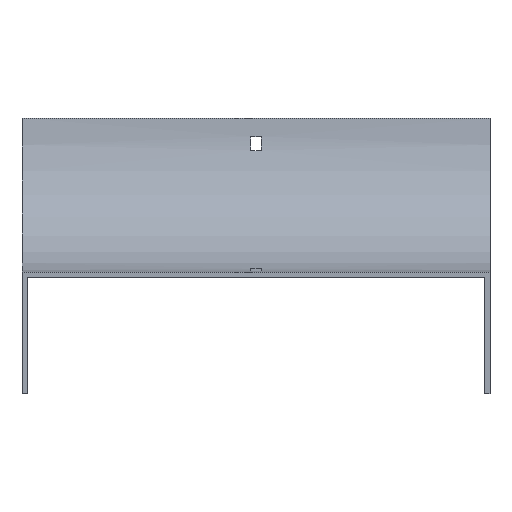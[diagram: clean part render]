
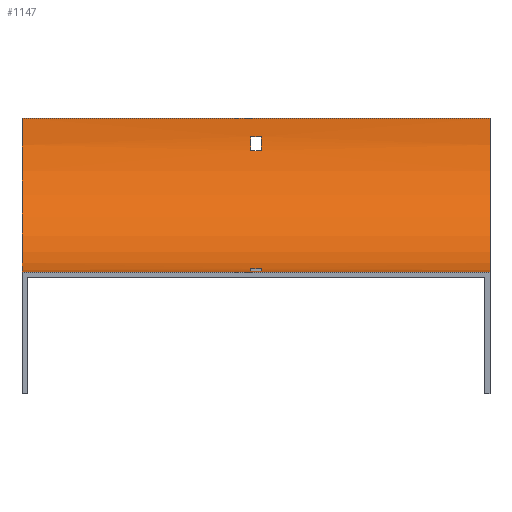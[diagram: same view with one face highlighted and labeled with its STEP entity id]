
A CAD part, front view. The second image highlights one B-rep face of the part: STEP entity #1147.
In plain terms, the highlighted cylindrical face has radius 100 mm (diameter 200 mm), a partial arc.
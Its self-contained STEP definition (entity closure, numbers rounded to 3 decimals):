
#18 = ORIENTED_EDGE ( 'NONE', *, *, #1484, .F. ) ;
#31 = EDGE_CURVE ( 'NONE', #651, #269, #287, .T. ) ;
#92 = FACE_BOUND ( 'NONE', #1176, .T. ) ;
#98 = ORIENTED_EDGE ( 'NONE', *, *, #1406, .F. ) ;
#101 = CARTESIAN_POINT ( 'NONE',  ( 152., 0., 0. ) ) ;
#111 = CARTESIAN_POINT ( 'NONE',  ( -3.25, -79., -97.77 ) ) ;
#119 = ORIENTED_EDGE ( 'NONE', *, *, #1554, .T. ) ;
#124 = DIRECTION ( 'NONE',  ( 0., -1., 0. ) ) ;
#136 = AXIS2_PLACEMENT_3D ( 'NONE', #367, #890, #1407 ) ;
#152 = LINE ( 'NONE', #679, #1106 ) ;
#162 = VECTOR ( 'NONE', #1092, 1000. ) ;
#174 = CARTESIAN_POINT ( 'NONE',  ( 152., -100., -100. ) ) ;
#178 = DIRECTION ( 'NONE',  ( 0., 0., 1. ) ) ;
#215 = EDGE_CURVE ( 'NONE', #269, #788, #1582, .T. ) ;
#244 = ORIENTED_EDGE ( 'NONE', *, *, #486, .T. ) ;
#257 = CARTESIAN_POINT ( 'NONE',  ( -3.25, -100., 0. ) ) ;
#259 = CARTESIAN_POINT ( 'NONE',  ( 3.25, -100., 0. ) ) ;
#269 = VERTEX_POINT ( 'NONE', #412 ) ;
#287 = LINE ( 'NONE', #1612, #760 ) ;
#292 = LINE ( 'NONE', #670, #1589 ) ;
#294 = DIRECTION ( 'NONE',  ( -1., 0., 0. ) ) ;
#298 = DIRECTION ( 'NONE',  ( 1., 0., 0. ) ) ;
#308 = AXIS2_PLACEMENT_3D ( 'NONE', #1210, #1350, #178 ) ;
#345 = ORIENTED_EDGE ( 'NONE', *, *, #1446, .F. ) ;
#367 = CARTESIAN_POINT ( 'NONE',  ( 152., -100., 0. ) ) ;
#378 = EDGE_LOOP ( 'NONE', ( #1422, #18, #98, #495 ) ) ;
#392 = CIRCLE ( 'NONE', #716, 100. ) ;
#394 = VERTEX_POINT ( 'NONE', #1343 ) ;
#397 = LINE ( 'NONE', #650, #808 ) ;
#408 = CIRCLE ( 'NONE', #1049, 100. ) ;
#412 = CARTESIAN_POINT ( 'NONE',  ( 3.25, -88., -99.277 ) ) ;
#438 = EDGE_CURVE ( 'NONE', #644, #807, #1272, .T. ) ;
#486 = EDGE_CURVE ( 'NONE', #1660, #1548, #392, .T. ) ;
#495 = ORIENTED_EDGE ( 'NONE', *, *, #438, .T. ) ;
#525 = DIRECTION ( 'NONE',  ( -1., 0., 0. ) ) ;
#526 = VERTEX_POINT ( 'NONE', #111 ) ;
#549 = DIRECTION ( 'NONE',  ( 1., 0., 0. ) ) ;
#555 = CARTESIAN_POINT ( 'NONE',  ( -152., -100., -100. ) ) ;
#568 = EDGE_CURVE ( 'NONE', #788, #526, #397, .T. ) ;
#584 = ORIENTED_EDGE ( 'NONE', *, *, #31, .F. ) ;
#599 = CARTESIAN_POINT ( 'NONE',  ( 152., -2.23, -21. ) ) ;
#611 = DIRECTION ( 'NONE',  ( 0., 0., -1. ) ) ;
#616 = AXIS2_PLACEMENT_3D ( 'NONE', #259, #1174, #124 ) ;
#629 = VERTEX_POINT ( 'NONE', #174 ) ;
#644 = VERTEX_POINT ( 'NONE', #693 ) ;
#650 = CARTESIAN_POINT ( 'NONE',  ( 152., -79., -97.77 ) ) ;
#651 = VERTEX_POINT ( 'NONE', #1217 ) ;
#668 = EDGE_CURVE ( 'NONE', #1548, #988, #1610, .T. ) ;
#670 = CARTESIAN_POINT ( 'NONE',  ( 152., -100., -100. ) ) ;
#676 = DIRECTION ( 'NONE',  ( 1., 0., 0. ) ) ;
#679 = CARTESIAN_POINT ( 'NONE',  ( 152., -0.723, -12. ) ) ;
#693 = CARTESIAN_POINT ( 'NONE',  ( 152., 0., 0. ) ) ;
#704 = DIRECTION ( 'NONE',  ( -1., 0., 0. ) ) ;
#716 = AXIS2_PLACEMENT_3D ( 'NONE', #772, #763, #611 ) ;
#727 = CARTESIAN_POINT ( 'NONE',  ( -3.25, -2.23, -21. ) ) ;
#757 = CARTESIAN_POINT ( 'NONE',  ( 3.25, -79., -97.77 ) ) ;
#760 = VECTOR ( 'NONE', #298, 1000. ) ;
#763 = DIRECTION ( 'NONE',  ( -1., 0., 0. ) ) ;
#772 = CARTESIAN_POINT ( 'NONE',  ( 3.25, -100., 0. ) ) ;
#776 = VECTOR ( 'NONE', #1135, 1000. ) ;
#785 = DIRECTION ( 'NONE',  ( 0., 0., 1. ) ) ;
#788 = VERTEX_POINT ( 'NONE', #757 ) ;
#807 = VERTEX_POINT ( 'NONE', #1274 ) ;
#808 = VECTOR ( 'NONE', #525, 1000. ) ;
#852 = DIRECTION ( 'NONE',  ( 0., 1., 0. ) ) ;
#890 = DIRECTION ( 'NONE',  ( -1., 0., 0. ) ) ;
#893 = CIRCLE ( 'NONE', #308, 100. ) ;
#932 = EDGE_CURVE ( 'NONE', #988, #394, #1593, .T. ) ;
#963 = AXIS2_PLACEMENT_3D ( 'NONE', #257, #676, #785 ) ;
#984 = EDGE_LOOP ( 'NONE', ( #345, #1289, #1362, #584 ) ) ;
#988 = VERTEX_POINT ( 'NONE', #727 ) ;
#1049 = AXIS2_PLACEMENT_3D ( 'NONE', #1495, #294, #852 ) ;
#1092 = DIRECTION ( 'NONE',  ( -1., 0., 0. ) ) ;
#1093 = DIRECTION ( 'NONE',  ( 0., 0., 1. ) ) ;
#1106 = VECTOR ( 'NONE', #549, 1000. ) ;
#1135 = DIRECTION ( 'NONE',  ( -1., 0., 0. ) ) ;
#1143 = FACE_BOUND ( 'NONE', #984, .T. ) ;
#1145 = ORIENTED_EDGE ( 'NONE', *, *, #668, .T. ) ;
#1147 = ADVANCED_FACE ( 'NONE', ( #1253, #92, #1143 ), #1662, .F. ) ;
#1174 = DIRECTION ( 'NONE',  ( 1., 0., 0. ) ) ;
#1176 = EDGE_LOOP ( 'NONE', ( #1145, #1293, #119, #244 ) ) ;
#1191 = DIRECTION ( 'NONE',  ( -1., 0., 0. ) ) ;
#1208 = AXIS2_PLACEMENT_3D ( 'NONE', #1476, #704, #1093 ) ;
#1210 = CARTESIAN_POINT ( 'NONE',  ( 152., -100., 0. ) ) ;
#1217 = CARTESIAN_POINT ( 'NONE',  ( -3.25, -88., -99.277 ) ) ;
#1218 = CARTESIAN_POINT ( 'NONE',  ( 3.25, -0.723, -12. ) ) ;
#1253 = FACE_OUTER_BOUND ( 'NONE', #378, .T. ) ;
#1272 = LINE ( 'NONE', #101, #776 ) ;
#1274 = CARTESIAN_POINT ( 'NONE',  ( -152., 0., 0. ) ) ;
#1289 = ORIENTED_EDGE ( 'NONE', *, *, #568, .F. ) ;
#1293 = ORIENTED_EDGE ( 'NONE', *, *, #932, .T. ) ;
#1327 = CARTESIAN_POINT ( 'NONE',  ( 3.25, -2.23, -21. ) ) ;
#1343 = CARTESIAN_POINT ( 'NONE',  ( -3.25, -0.723, -12. ) ) ;
#1350 = DIRECTION ( 'NONE',  ( -1., 0., 0. ) ) ;
#1362 = ORIENTED_EDGE ( 'NONE', *, *, #215, .F. ) ;
#1377 = CIRCLE ( 'NONE', #1208, 100. ) ;
#1406 = EDGE_CURVE ( 'NONE', #644, #629, #893, .T. ) ;
#1407 = DIRECTION ( 'NONE',  ( 0., 0., 1. ) ) ;
#1422 = ORIENTED_EDGE ( 'NONE', *, *, #1599, .T. ) ;
#1446 = EDGE_CURVE ( 'NONE', #526, #651, #408, .T. ) ;
#1476 = CARTESIAN_POINT ( 'NONE',  ( -152., -100., 0. ) ) ;
#1484 = EDGE_CURVE ( 'NONE', #629, #1491, #292, .T. ) ;
#1491 = VERTEX_POINT ( 'NONE', #555 ) ;
#1495 = CARTESIAN_POINT ( 'NONE',  ( -3.25, -100., 0. ) ) ;
#1548 = VERTEX_POINT ( 'NONE', #1327 ) ;
#1554 = EDGE_CURVE ( 'NONE', #394, #1660, #152, .T. ) ;
#1582 = CIRCLE ( 'NONE', #616, 100. ) ;
#1589 = VECTOR ( 'NONE', #1191, 1000. ) ;
#1593 = CIRCLE ( 'NONE', #963, 100. ) ;
#1599 = EDGE_CURVE ( 'NONE', #807, #1491, #1377, .T. ) ;
#1610 = LINE ( 'NONE', #599, #162 ) ;
#1612 = CARTESIAN_POINT ( 'NONE',  ( 152., -88., -99.277 ) ) ;
#1660 = VERTEX_POINT ( 'NONE', #1218 ) ;
#1662 = CYLINDRICAL_SURFACE ( 'NONE', #136, 100. ) ;
